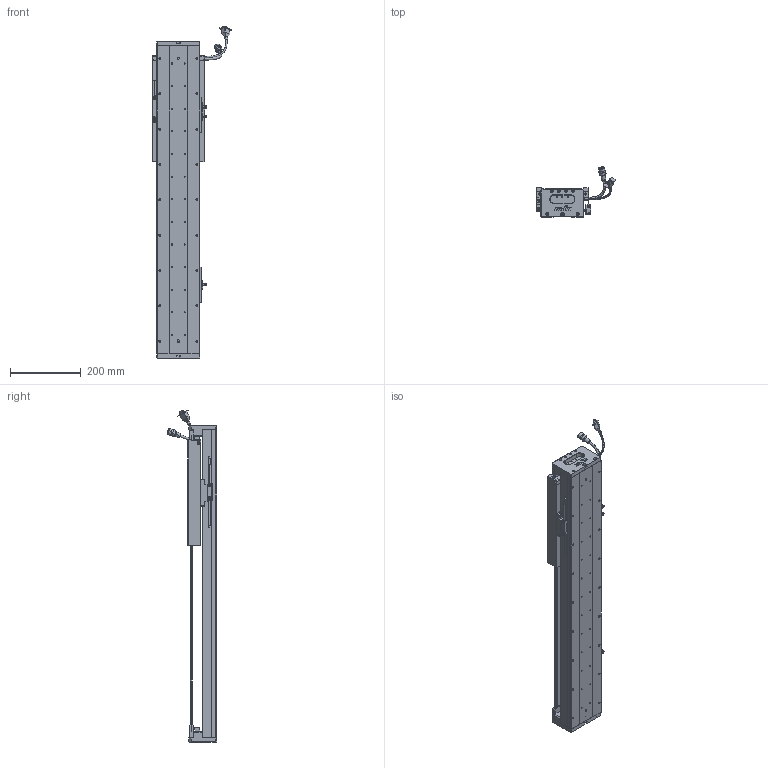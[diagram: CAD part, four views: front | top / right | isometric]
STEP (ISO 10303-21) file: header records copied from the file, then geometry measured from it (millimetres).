
FILE_DESCRIPTION (( 'STEP AP203' ), '1' );
FILE_NAME ('Z4-RY120D-1-L500-B-K.SLDASM_0500.step', '2021-05-17T06:06:09', ( '盈信电脑' ), ( '东莞市道滘镇水果街19号' ), 'SwSTEP 2.0', 'SolidWorks 2016', '' );
FILE_SCHEMA (( 'CONFIG_CONTROL_DESIGN' ));
Length unit declared in the file: millimetre
Products named in the file (37): SCREW-M1.6; SCALE-Part-1; PBU_SHEET; 672嫖萇羲壽假蚾釱; SHIELDPLATE; COVER-Part-1; SCREW-M1.7; SCREW-M1.6-1; HARNESS; SCALE-Part-2; 120-Z-臏賑輸盄裔(21遴); SCREW-M1.7-1; 140蚥薯蝶輸; HARNESS-Part-2; SEAL; SEAL-Part-1; 140雄赽晤鎢ん堤盄; 榋妏寠巭燃_暯_M2_2; Z4-RY120-L500詩湍100mm遵_0500; COVER; Z4-RY120D-1-L500-B-K.SLDASM_0500; Z-RY120D詩湍狟揤裔; RY100FB-遵嫖萇覜茼え; SCALE; SCREW-M1.6-3; LABEL-Part-1; Z4-RY120-500-倰第菁釱_0500; HARNESS-Part-1; 080黍杅芛假蚾釱21遴; Z-120詩湍傷裔啣; Z4-RY120铝滑块（21款）; LABEL; 覜茼ん672; SCREW-M1.6-2; Z-RY120D詩湍奻揤裔; HOLDER0; PSLH080_PSLF2
Assembly tree (43 placements, depth 4):
  Z4-RY120D-1-L500-B-K.SLDASM_0500
    Z4-RY120-500-倰第菁釱_0500
    覜茼ん672  x3
    672嫖萇羲壽假蚾釱  x2
    Z4-RY120铝滑块（21款）
    PSLH080_PSLF2
      SCALE
        SCALE-Part-1
        SCALE-Part-2
      HARNESS
        HARNESS-Part-1
        HARNESS-Part-2
      LABEL
        LABEL-Part-1
      COVER
        COVER-Part-1
      SEAL
        SEAL-Part-1
      榋妏寠巭燃_暯_M2_2
      SHIELDPLATE
      SCREW-M1.7
      SCREW-M1.7-1
      PBU_SHEET
      SCREW-M1.6
      SCREW-M1.6-1
      SCREW-M1.6-2
      SCREW-M1.6-3
      HOLDER0
    080黍杅芛假蚾釱21遴
    120-Z-臏賑輸盄裔(21遴)
    140雄赽晤鎢ん堤盄
    140蚥薯蝶輸  x2
    RY100FB-遵嫖萇覜茼え
    Z-120詩湍傷裔啣  x2
    Z-RY120D詩湍奻揤裔  x2
    Z-RY120D詩湍狟揤裔  x2
    Z4-RY120-L500詩湍100mm遵_0500
Bounding box: 222.88 x 140.94 x 939 mm (x, y, z)
Volume: 2961586 mm3; surface area: 943879.5 mm2
Topology: 38 solids, 38 shells, 2747 faces, 7374 edges, 4660 vertices
Faces by surface type: cylinder 1244, plane 1113, cone 268, torus 69, bspline 53
Entity records: 81591 total; most frequent: CARTESIAN_POINT 21430, ORIENTED_EDGE 11740, DIRECTION 11632, EDGE_CURVE 5870, AXIS2_PLACEMENT_3D 4254, VERTEX_POINT 3780, LINE 3124, VECTOR 3124
